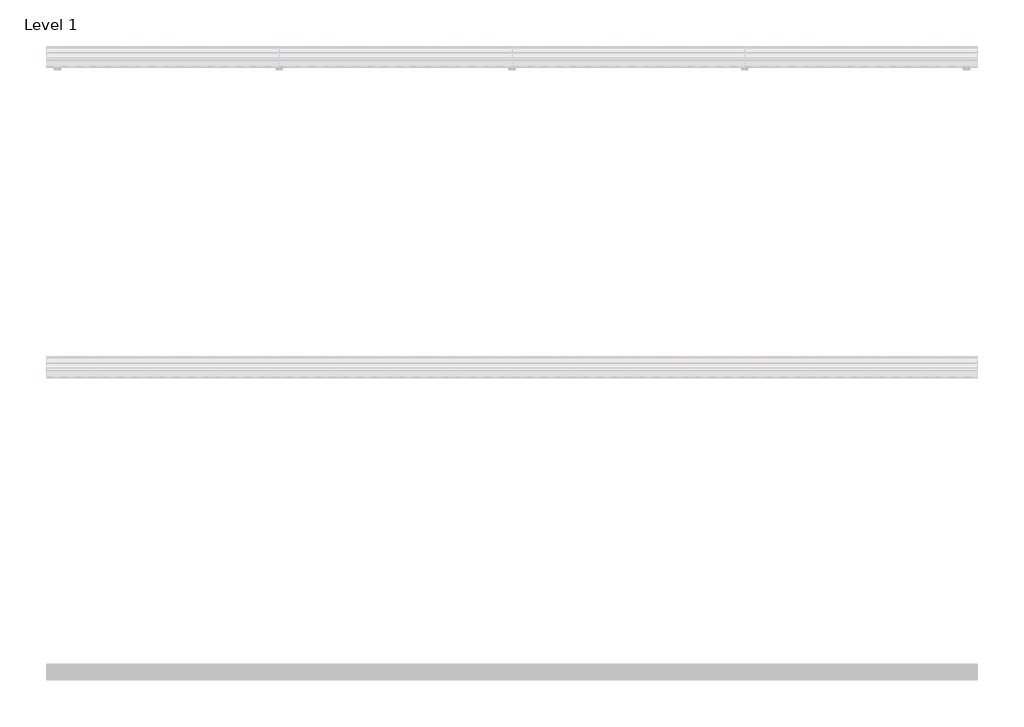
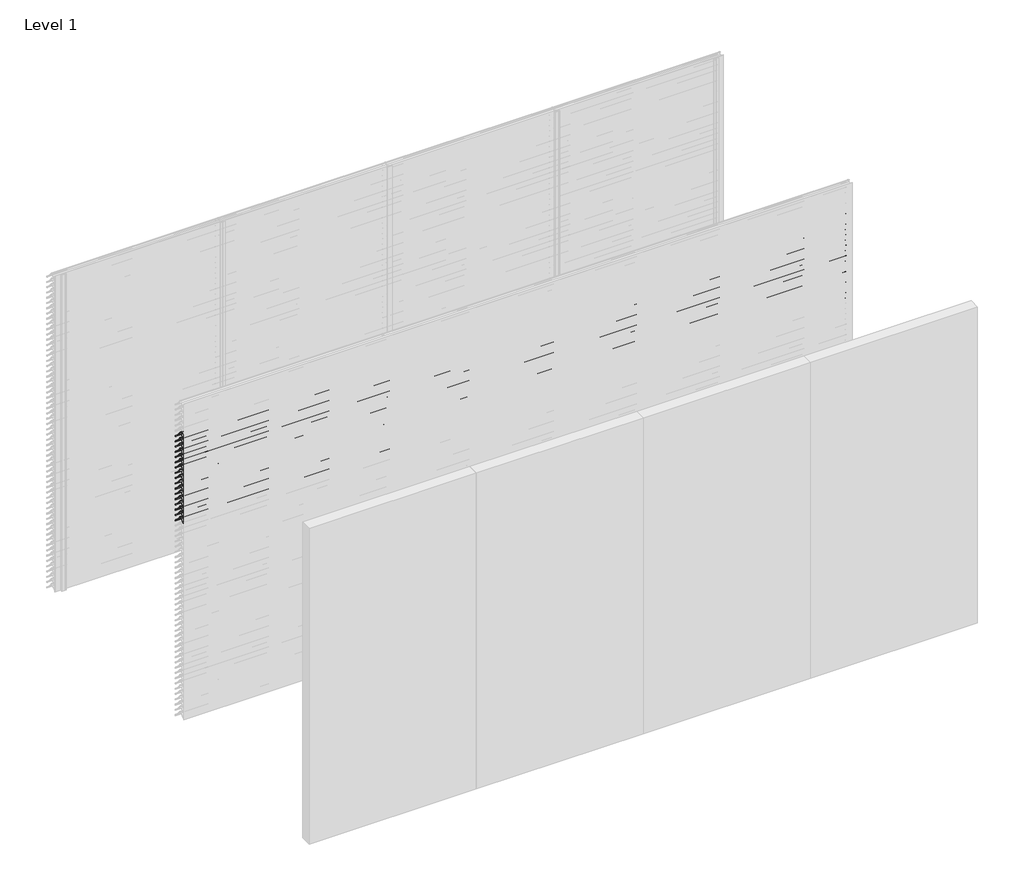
# One storey, part 89 of 173: 17 proxies.
"""IFC4 building model written with IfcOpenShell, lengths in millimetres."""

from ifc_helpers import new_model, si_unit, point, frame, frame_2d, origin, place, context, project, spatial, polyline, circle_curve, trimmed, segment, composite_curve, outline, extrude, element, save

model = new_model("IFC4")

# Units and contexts
model_context = context("Model", 3, world=origin())
ifc_project = project(units=[si_unit("LENGTHUNIT", "METRE", prefix="MILLI")], contexts=[model_context])

# Site, building, storey
site = spatial("IfcSite", under=ifc_project)
building = spatial("IfcBuilding", under=site)
storey = spatial("IfcBuildingStorey", under=building, Name="Level 1", Elevation=0.0)

# Proxies
placement = place(None, origin())
element("IfcBuildingElementProxy", 1, Name="Wall Sweeps", at=placement, inside=storey, context=model_context, shape_type="SweptSolid", body=[
    extrude(outline(composite_curve([segment(polyline([(-25998.0, 2659.1474905), (-25998.0, 2661.6227417)]), True, "CONTINUOUS"), segment(trimmed(circle_curve(frame_2d((-25951.2682172, 2616.2200208)), 65.1557103), [point((-25998.0, 2661.6227417))], [point((-25954.4014323, 2681.3003524))], False, "CARTESIAN"), True, "CONTINUOUS"), segment(polyline([(-25954.4014323, 2681.3003524), (-25934.8315836, 2681.3003524)]), True, "CONTINUOUS"), segment(trimmed(circle_curve(frame_2d((-25732.7329489, 2828.5533172)), 250.0545817), [point((-25934.8315836, 2681.3003524))], [point((-25941.4452143, 2690.8344583))], False, "CARTESIAN"), True, "CONTINUOUS"), segment(trimmed(circle_curve(frame_2d((-25953.2981792, 2685.1737835)), 13.1352966), [point((-25941.4452143, 2690.8344583))], [point((-25953.8171475, 2698.298824))], True, "CARTESIAN"), True, "CONTINUOUS"), segment(polyline([(-25953.8171475, 2698.298824), (-25953.8171475, 2700.0)]), True, "CONTINUOUS"), segment(trimmed(circle_curve(frame_2d((-25953.2981792, 2685.1737835)), 14.8352966), [point((-25953.8171475, 2700.0))], [point((-25939.9637661, 2691.6760487))], False, "CARTESIAN"), True, "CONTINUOUS"), segment(trimmed(circle_curve(frame_2d((-25732.7329489, 2828.5533172)), 248.3545817), [point((-25939.9637661, 2691.6760487))], [point((-25873.8787895, 2624.2059416))], True, "CARTESIAN"), True, "CONTINUOUS"), segment(trimmed(circle_curve(frame_2d((-25883.8147537, 2611.6649442)), 16.0), [point((-25873.8787895, 2624.2059416))], [point((-25867.8648347, 2610.4))], False, "CARTESIAN"), True, "CONTINUOUS"), segment(polyline([(-25867.8648347, 2610.4), (-25869.6712069, 2610.4)]), True, "CONTINUOUS"), segment(trimmed(circle_curve(frame_2d((-25883.8147537, 2611.6649442)), 14.2), [point((-25869.6712069, 2610.4))], [point((-25874.9518628, 2622.7594998))], True, "CARTESIAN"), True, "CONTINUOUS"), segment(trimmed(circle_curve(frame_2d((-25732.7329489, 2828.5533172)), 250.1545817), [point((-25874.9518628, 2622.7594998))], [point((-25933.7064024, 2679.6003524))], False, "CARTESIAN"), True, "CONTINUOUS"), segment(polyline([(-25933.7064024, 2679.6003524), (-25954.3602632, 2679.6003524)]), True, "CONTINUOUS"), segment(trimmed(circle_curve(frame_2d((-25951.2682172, 2616.2200208)), 63.4557103), [point((-25954.3602632, 2679.6003524))], [point((-25998.0, 2659.1474905))], True, "CARTESIAN"), True, "CONTINUOUS")], self_intersect=False)), frame((0.0, 0.0, 0.0), z_axis=(1.0, 0.0, 0.0), x_axis=(0.0, 1.0, 0.0)), (0.0, 0.0, 1.0), 6000.0),
])
element("IfcBuildingElementProxy", 2, Name="Wall Sweeps", at=placement, inside=storey, context=model_context, shape_type="SweptSolid", body=[
    extrude(outline(composite_curve([segment(polyline([(-25998.0, 2609.1474905), (-25998.0, 2611.6227417)]), True, "CONTINUOUS"), segment(trimmed(circle_curve(frame_2d((-25951.2682172, 2566.2200208)), 65.1557103), [point((-25998.0, 2611.6227417))], [point((-25954.4014323, 2631.3003524))], False, "CARTESIAN"), True, "CONTINUOUS"), segment(polyline([(-25954.4014323, 2631.3003524), (-25934.8315836, 2631.3003524)]), True, "CONTINUOUS"), segment(trimmed(circle_curve(frame_2d((-25732.7329489, 2778.5533172)), 250.0545817), [point((-25934.8315836, 2631.3003524))], [point((-25941.4452143, 2640.8344583))], False, "CARTESIAN"), True, "CONTINUOUS"), segment(trimmed(circle_curve(frame_2d((-25953.2981792, 2635.1737835)), 13.1352966), [point((-25941.4452143, 2640.8344583))], [point((-25953.8171475, 2648.298824))], True, "CARTESIAN"), True, "CONTINUOUS"), segment(polyline([(-25953.8171475, 2648.298824), (-25953.8171475, 2650.0)]), True, "CONTINUOUS"), segment(trimmed(circle_curve(frame_2d((-25953.2981792, 2635.1737835)), 14.8352966), [point((-25953.8171475, 2650.0))], [point((-25939.9637661, 2641.6760487))], False, "CARTESIAN"), True, "CONTINUOUS"), segment(trimmed(circle_curve(frame_2d((-25732.7329489, 2778.5533172)), 248.3545817), [point((-25939.9637661, 2641.6760487))], [point((-25873.8787895, 2574.2059416))], True, "CARTESIAN"), True, "CONTINUOUS"), segment(trimmed(circle_curve(frame_2d((-25883.8147537, 2561.6649442)), 16.0), [point((-25873.8787895, 2574.2059416))], [point((-25867.8648347, 2560.4))], False, "CARTESIAN"), True, "CONTINUOUS"), segment(polyline([(-25867.8648347, 2560.4), (-25869.6712069, 2560.4)]), True, "CONTINUOUS"), segment(trimmed(circle_curve(frame_2d((-25883.8147537, 2561.6649442)), 14.2), [point((-25869.6712069, 2560.4))], [point((-25874.9518628, 2572.7594998))], True, "CARTESIAN"), True, "CONTINUOUS"), segment(trimmed(circle_curve(frame_2d((-25732.7329489, 2778.5533172)), 250.1545817), [point((-25874.9518628, 2572.7594998))], [point((-25933.7064024, 2629.6003524))], False, "CARTESIAN"), True, "CONTINUOUS"), segment(polyline([(-25933.7064024, 2629.6003524), (-25954.3602632, 2629.6003524)]), True, "CONTINUOUS"), segment(trimmed(circle_curve(frame_2d((-25951.2682172, 2566.2200208)), 63.4557103), [point((-25954.3602632, 2629.6003524))], [point((-25998.0, 2609.1474905))], True, "CARTESIAN"), True, "CONTINUOUS")], self_intersect=False)), frame((0.0, 0.0, 0.0), z_axis=(1.0, 0.0, 0.0), x_axis=(0.0, 1.0, 0.0)), (0.0, 0.0, 1.0), 6000.0),
])
element("IfcBuildingElementProxy", 3, Name="Wall Sweeps", at=placement, inside=storey, context=model_context, shape_type="SweptSolid", body=[
    extrude(outline(composite_curve([segment(polyline([(-25998.0, 2559.1474905), (-25998.0, 2561.6227417)]), True, "CONTINUOUS"), segment(trimmed(circle_curve(frame_2d((-25951.2682172, 2516.2200208)), 65.1557103), [point((-25998.0, 2561.6227417))], [point((-25954.4014323, 2581.3003524))], False, "CARTESIAN"), True, "CONTINUOUS"), segment(polyline([(-25954.4014323, 2581.3003524), (-25934.8315836, 2581.3003524)]), True, "CONTINUOUS"), segment(trimmed(circle_curve(frame_2d((-25732.7329489, 2728.5533172)), 250.0545817), [point((-25934.8315836, 2581.3003524))], [point((-25941.4452143, 2590.8344583))], False, "CARTESIAN"), True, "CONTINUOUS"), segment(trimmed(circle_curve(frame_2d((-25953.2981792, 2585.1737835)), 13.1352966), [point((-25941.4452143, 2590.8344583))], [point((-25953.8171475, 2598.298824))], True, "CARTESIAN"), True, "CONTINUOUS"), segment(polyline([(-25953.8171475, 2598.298824), (-25953.8171475, 2600.0)]), True, "CONTINUOUS"), segment(trimmed(circle_curve(frame_2d((-25953.2981792, 2585.1737835)), 14.8352966), [point((-25953.8171475, 2600.0))], [point((-25939.9637661, 2591.6760487))], False, "CARTESIAN"), True, "CONTINUOUS"), segment(trimmed(circle_curve(frame_2d((-25732.7329489, 2728.5533172)), 248.3545817), [point((-25939.9637661, 2591.6760487))], [point((-25873.8787895, 2524.2059416))], True, "CARTESIAN"), True, "CONTINUOUS"), segment(trimmed(circle_curve(frame_2d((-25883.8147537, 2511.6649442)), 16.0), [point((-25873.8787895, 2524.2059416))], [point((-25867.8648347, 2510.4))], False, "CARTESIAN"), True, "CONTINUOUS"), segment(polyline([(-25867.8648347, 2510.4), (-25869.6712069, 2510.4)]), True, "CONTINUOUS"), segment(trimmed(circle_curve(frame_2d((-25883.8147537, 2511.6649442)), 14.2), [point((-25869.6712069, 2510.4))], [point((-25874.9518628, 2522.7594998))], True, "CARTESIAN"), True, "CONTINUOUS"), segment(trimmed(circle_curve(frame_2d((-25732.7329489, 2728.5533172)), 250.1545817), [point((-25874.9518628, 2522.7594998))], [point((-25933.7064024, 2579.6003524))], False, "CARTESIAN"), True, "CONTINUOUS"), segment(polyline([(-25933.7064024, 2579.6003524), (-25954.3602632, 2579.6003524)]), True, "CONTINUOUS"), segment(trimmed(circle_curve(frame_2d((-25951.2682172, 2516.2200208)), 63.4557103), [point((-25954.3602632, 2579.6003524))], [point((-25998.0, 2559.1474905))], True, "CARTESIAN"), True, "CONTINUOUS")], self_intersect=False)), frame((0.0, 0.0, 0.0), z_axis=(1.0, 0.0, 0.0), x_axis=(0.0, 1.0, 0.0)), (0.0, 0.0, 1.0), 6000.0),
])
element("IfcBuildingElementProxy", 4, Name="Wall Sweeps", at=placement, inside=storey, context=model_context, shape_type="SweptSolid", body=[
    extrude(outline(composite_curve([segment(polyline([(-25998.0, 2509.1474905), (-25998.0, 2511.6227417)]), True, "CONTINUOUS"), segment(trimmed(circle_curve(frame_2d((-25951.2682172, 2466.2200208)), 65.1557103), [point((-25998.0, 2511.6227417))], [point((-25954.4014323, 2531.3003524))], False, "CARTESIAN"), True, "CONTINUOUS"), segment(polyline([(-25954.4014323, 2531.3003524), (-25934.8315836, 2531.3003524)]), True, "CONTINUOUS"), segment(trimmed(circle_curve(frame_2d((-25732.7329489, 2678.5533172)), 250.0545817), [point((-25934.8315836, 2531.3003524))], [point((-25941.4452143, 2540.8344583))], False, "CARTESIAN"), True, "CONTINUOUS"), segment(trimmed(circle_curve(frame_2d((-25953.2981792, 2535.1737835)), 13.1352966), [point((-25941.4452143, 2540.8344583))], [point((-25953.8171475, 2548.298824))], True, "CARTESIAN"), True, "CONTINUOUS"), segment(polyline([(-25953.8171475, 2548.298824), (-25953.8171475, 2550.0)]), True, "CONTINUOUS"), segment(trimmed(circle_curve(frame_2d((-25953.2981792, 2535.1737835)), 14.8352966), [point((-25953.8171475, 2550.0))], [point((-25939.9637661, 2541.6760487))], False, "CARTESIAN"), True, "CONTINUOUS"), segment(trimmed(circle_curve(frame_2d((-25732.7329489, 2678.5533172)), 248.3545817), [point((-25939.9637661, 2541.6760487))], [point((-25873.8787895, 2474.2059416))], True, "CARTESIAN"), True, "CONTINUOUS"), segment(trimmed(circle_curve(frame_2d((-25883.8147537, 2461.6649442)), 16.0), [point((-25873.8787895, 2474.2059416))], [point((-25867.8648347, 2460.4))], False, "CARTESIAN"), True, "CONTINUOUS"), segment(polyline([(-25867.8648347, 2460.4), (-25869.6712069, 2460.4)]), True, "CONTINUOUS"), segment(trimmed(circle_curve(frame_2d((-25883.8147537, 2461.6649442)), 14.2), [point((-25869.6712069, 2460.4))], [point((-25874.9518628, 2472.7594998))], True, "CARTESIAN"), True, "CONTINUOUS"), segment(trimmed(circle_curve(frame_2d((-25732.7329489, 2678.5533172)), 250.1545817), [point((-25874.9518628, 2472.7594998))], [point((-25933.7064024, 2529.6003524))], False, "CARTESIAN"), True, "CONTINUOUS"), segment(polyline([(-25933.7064024, 2529.6003524), (-25954.3602632, 2529.6003524)]), True, "CONTINUOUS"), segment(trimmed(circle_curve(frame_2d((-25951.2682172, 2466.2200208)), 63.4557103), [point((-25954.3602632, 2529.6003524))], [point((-25998.0, 2509.1474905))], True, "CARTESIAN"), True, "CONTINUOUS")], self_intersect=False)), frame((0.0, 0.0, 0.0), z_axis=(1.0, 0.0, 0.0), x_axis=(0.0, 1.0, 0.0)), (0.0, 0.0, 1.0), 6000.0),
])
element("IfcBuildingElementProxy", 5, Name="Wall Sweeps", at=placement, inside=storey, context=model_context, shape_type="SweptSolid", body=[
    extrude(outline(composite_curve([segment(polyline([(-25998.0, 2459.1474905), (-25998.0, 2461.6227417)]), True, "CONTINUOUS"), segment(trimmed(circle_curve(frame_2d((-25951.2682172, 2416.2200208)), 65.1557103), [point((-25998.0, 2461.6227417))], [point((-25954.4014323, 2481.3003524))], False, "CARTESIAN"), True, "CONTINUOUS"), segment(polyline([(-25954.4014323, 2481.3003524), (-25934.8315836, 2481.3003524)]), True, "CONTINUOUS"), segment(trimmed(circle_curve(frame_2d((-25732.7329489, 2628.5533172)), 250.0545817), [point((-25934.8315836, 2481.3003524))], [point((-25941.4452143, 2490.8344583))], False, "CARTESIAN"), True, "CONTINUOUS"), segment(trimmed(circle_curve(frame_2d((-25953.2981792, 2485.1737835)), 13.1352966), [point((-25941.4452143, 2490.8344583))], [point((-25953.8171475, 2498.298824))], True, "CARTESIAN"), True, "CONTINUOUS"), segment(polyline([(-25953.8171475, 2498.298824), (-25953.8171475, 2500.0)]), True, "CONTINUOUS"), segment(trimmed(circle_curve(frame_2d((-25953.2981792, 2485.1737835)), 14.8352966), [point((-25953.8171475, 2500.0))], [point((-25939.9637661, 2491.6760487))], False, "CARTESIAN"), True, "CONTINUOUS"), segment(trimmed(circle_curve(frame_2d((-25732.7329489, 2628.5533172)), 248.3545817), [point((-25939.9637661, 2491.6760487))], [point((-25873.8787895, 2424.2059416))], True, "CARTESIAN"), True, "CONTINUOUS"), segment(trimmed(circle_curve(frame_2d((-25883.8147537, 2411.6649442)), 16.0), [point((-25873.8787895, 2424.2059416))], [point((-25867.8648347, 2410.4))], False, "CARTESIAN"), True, "CONTINUOUS"), segment(polyline([(-25867.8648347, 2410.4), (-25869.6712069, 2410.4)]), True, "CONTINUOUS"), segment(trimmed(circle_curve(frame_2d((-25883.8147537, 2411.6649442)), 14.2), [point((-25869.6712069, 2410.4))], [point((-25874.9518628, 2422.7594998))], True, "CARTESIAN"), True, "CONTINUOUS"), segment(trimmed(circle_curve(frame_2d((-25732.7329489, 2628.5533172)), 250.1545817), [point((-25874.9518628, 2422.7594998))], [point((-25933.7064024, 2479.6003524))], False, "CARTESIAN"), True, "CONTINUOUS"), segment(polyline([(-25933.7064024, 2479.6003524), (-25954.3602632, 2479.6003524)]), True, "CONTINUOUS"), segment(trimmed(circle_curve(frame_2d((-25951.2682172, 2416.2200208)), 63.4557103), [point((-25954.3602632, 2479.6003524))], [point((-25998.0, 2459.1474905))], True, "CARTESIAN"), True, "CONTINUOUS")], self_intersect=False)), frame((0.0, 0.0, 0.0), z_axis=(1.0, 0.0, 0.0), x_axis=(0.0, 1.0, 0.0)), (0.0, 0.0, 1.0), 6000.0),
])
element("IfcBuildingElementProxy", 6, Name="Wall Sweeps", at=placement, inside=storey, context=model_context, shape_type="SweptSolid", body=[
    extrude(outline(composite_curve([segment(polyline([(-25998.0, 2409.1474905), (-25998.0, 2411.6227417)]), True, "CONTINUOUS"), segment(trimmed(circle_curve(frame_2d((-25951.2682172, 2366.2200208)), 65.1557103), [point((-25998.0, 2411.6227417))], [point((-25954.4014323, 2431.3003524))], False, "CARTESIAN"), True, "CONTINUOUS"), segment(polyline([(-25954.4014323, 2431.3003524), (-25934.8315836, 2431.3003524)]), True, "CONTINUOUS"), segment(trimmed(circle_curve(frame_2d((-25732.7329489, 2578.5533172)), 250.0545817), [point((-25934.8315836, 2431.3003524))], [point((-25941.4452143, 2440.8344583))], False, "CARTESIAN"), True, "CONTINUOUS"), segment(trimmed(circle_curve(frame_2d((-25953.2981792, 2435.1737835)), 13.1352966), [point((-25941.4452143, 2440.8344583))], [point((-25953.8171475, 2448.298824))], True, "CARTESIAN"), True, "CONTINUOUS"), segment(polyline([(-25953.8171475, 2448.298824), (-25953.8171475, 2450.0)]), True, "CONTINUOUS"), segment(trimmed(circle_curve(frame_2d((-25953.2981792, 2435.1737835)), 14.8352966), [point((-25953.8171475, 2450.0))], [point((-25939.9637661, 2441.6760487))], False, "CARTESIAN"), True, "CONTINUOUS"), segment(trimmed(circle_curve(frame_2d((-25732.7329489, 2578.5533172)), 248.3545817), [point((-25939.9637661, 2441.6760487))], [point((-25873.8787895, 2374.2059416))], True, "CARTESIAN"), True, "CONTINUOUS"), segment(trimmed(circle_curve(frame_2d((-25883.8147537, 2361.6649442)), 16.0), [point((-25873.8787895, 2374.2059416))], [point((-25867.8648347, 2360.4))], False, "CARTESIAN"), True, "CONTINUOUS"), segment(polyline([(-25867.8648347, 2360.4), (-25869.6712069, 2360.4)]), True, "CONTINUOUS"), segment(trimmed(circle_curve(frame_2d((-25883.8147537, 2361.6649442)), 14.2), [point((-25869.6712069, 2360.4))], [point((-25874.9518628, 2372.7594998))], True, "CARTESIAN"), True, "CONTINUOUS"), segment(trimmed(circle_curve(frame_2d((-25732.7329489, 2578.5533172)), 250.1545817), [point((-25874.9518628, 2372.7594998))], [point((-25933.7064024, 2429.6003524))], False, "CARTESIAN"), True, "CONTINUOUS"), segment(polyline([(-25933.7064024, 2429.6003524), (-25954.3602632, 2429.6003524)]), True, "CONTINUOUS"), segment(trimmed(circle_curve(frame_2d((-25951.2682172, 2366.2200208)), 63.4557103), [point((-25954.3602632, 2429.6003524))], [point((-25998.0, 2409.1474905))], True, "CARTESIAN"), True, "CONTINUOUS")], self_intersect=False)), frame((0.0, 0.0, 0.0), z_axis=(1.0, 0.0, 0.0), x_axis=(0.0, 1.0, 0.0)), (0.0, 0.0, 1.0), 6000.0),
])
element("IfcBuildingElementProxy", 7, Name="Wall Sweeps", at=placement, inside=storey, context=model_context, shape_type="SweptSolid", body=[
    extrude(outline(composite_curve([segment(polyline([(-25998.0, 2359.1474905), (-25998.0, 2361.6227417)]), True, "CONTINUOUS"), segment(trimmed(circle_curve(frame_2d((-25951.2682172, 2316.2200208)), 65.1557103), [point((-25998.0, 2361.6227417))], [point((-25954.4014323, 2381.3003524))], False, "CARTESIAN"), True, "CONTINUOUS"), segment(polyline([(-25954.4014323, 2381.3003524), (-25934.8315836, 2381.3003524)]), True, "CONTINUOUS"), segment(trimmed(circle_curve(frame_2d((-25732.7329489, 2528.5533172)), 250.0545817), [point((-25934.8315836, 2381.3003524))], [point((-25941.4452143, 2390.8344583))], False, "CARTESIAN"), True, "CONTINUOUS"), segment(trimmed(circle_curve(frame_2d((-25953.2981792, 2385.1737835)), 13.1352966), [point((-25941.4452143, 2390.8344583))], [point((-25953.8171475, 2398.298824))], True, "CARTESIAN"), True, "CONTINUOUS"), segment(polyline([(-25953.8171475, 2398.298824), (-25953.8171475, 2400.0)]), True, "CONTINUOUS"), segment(trimmed(circle_curve(frame_2d((-25953.2981792, 2385.1737835)), 14.8352966), [point((-25953.8171475, 2400.0))], [point((-25939.9637661, 2391.6760487))], False, "CARTESIAN"), True, "CONTINUOUS"), segment(trimmed(circle_curve(frame_2d((-25732.7329489, 2528.5533172)), 248.3545817), [point((-25939.9637661, 2391.6760487))], [point((-25873.8787895, 2324.2059416))], True, "CARTESIAN"), True, "CONTINUOUS"), segment(trimmed(circle_curve(frame_2d((-25883.8147537, 2311.6649442)), 16.0), [point((-25873.8787895, 2324.2059416))], [point((-25867.8648347, 2310.4))], False, "CARTESIAN"), True, "CONTINUOUS"), segment(polyline([(-25867.8648347, 2310.4), (-25869.6712069, 2310.4)]), True, "CONTINUOUS"), segment(trimmed(circle_curve(frame_2d((-25883.8147537, 2311.6649442)), 14.2), [point((-25869.6712069, 2310.4))], [point((-25874.9518628, 2322.7594998))], True, "CARTESIAN"), True, "CONTINUOUS"), segment(trimmed(circle_curve(frame_2d((-25732.7329489, 2528.5533172)), 250.1545817), [point((-25874.9518628, 2322.7594998))], [point((-25933.7064024, 2379.6003524))], False, "CARTESIAN"), True, "CONTINUOUS"), segment(polyline([(-25933.7064024, 2379.6003524), (-25954.3602632, 2379.6003524)]), True, "CONTINUOUS"), segment(trimmed(circle_curve(frame_2d((-25951.2682172, 2316.2200208)), 63.4557103), [point((-25954.3602632, 2379.6003524))], [point((-25998.0, 2359.1474905))], True, "CARTESIAN"), True, "CONTINUOUS")], self_intersect=False)), frame((0.0, 0.0, 0.0), z_axis=(1.0, 0.0, 0.0), x_axis=(0.0, 1.0, 0.0)), (0.0, 0.0, 1.0), 6000.0),
])
element("IfcBuildingElementProxy", 8, Name="Wall Sweeps", at=placement, inside=storey, context=model_context, shape_type="SweptSolid", body=[
    extrude(outline(composite_curve([segment(polyline([(-25998.0, 2309.1474905), (-25998.0, 2311.6227417)]), True, "CONTINUOUS"), segment(trimmed(circle_curve(frame_2d((-25951.2682172, 2266.2200208)), 65.1557103), [point((-25998.0, 2311.6227417))], [point((-25954.4014323, 2331.3003524))], False, "CARTESIAN"), True, "CONTINUOUS"), segment(polyline([(-25954.4014323, 2331.3003524), (-25934.8315836, 2331.3003524)]), True, "CONTINUOUS"), segment(trimmed(circle_curve(frame_2d((-25732.7329489, 2478.5533172)), 250.0545817), [point((-25934.8315836, 2331.3003524))], [point((-25941.4452143, 2340.8344583))], False, "CARTESIAN"), True, "CONTINUOUS"), segment(trimmed(circle_curve(frame_2d((-25953.2981792, 2335.1737835)), 13.1352966), [point((-25941.4452143, 2340.8344583))], [point((-25953.8171475, 2348.298824))], True, "CARTESIAN"), True, "CONTINUOUS"), segment(polyline([(-25953.8171475, 2348.298824), (-25953.8171475, 2350.0)]), True, "CONTINUOUS"), segment(trimmed(circle_curve(frame_2d((-25953.2981792, 2335.1737835)), 14.8352966), [point((-25953.8171475, 2350.0))], [point((-25939.9637661, 2341.6760487))], False, "CARTESIAN"), True, "CONTINUOUS"), segment(trimmed(circle_curve(frame_2d((-25732.7329489, 2478.5533172)), 248.3545817), [point((-25939.9637661, 2341.6760487))], [point((-25873.8787895, 2274.2059416))], True, "CARTESIAN"), True, "CONTINUOUS"), segment(trimmed(circle_curve(frame_2d((-25883.8147537, 2261.6649442)), 16.0), [point((-25873.8787895, 2274.2059416))], [point((-25867.8648347, 2260.4))], False, "CARTESIAN"), True, "CONTINUOUS"), segment(polyline([(-25867.8648347, 2260.4), (-25869.6712069, 2260.4)]), True, "CONTINUOUS"), segment(trimmed(circle_curve(frame_2d((-25883.8147537, 2261.6649442)), 14.2), [point((-25869.6712069, 2260.4))], [point((-25874.9518628, 2272.7594998))], True, "CARTESIAN"), True, "CONTINUOUS"), segment(trimmed(circle_curve(frame_2d((-25732.7329489, 2478.5533172)), 250.1545817), [point((-25874.9518628, 2272.7594998))], [point((-25933.7064024, 2329.6003524))], False, "CARTESIAN"), True, "CONTINUOUS"), segment(polyline([(-25933.7064024, 2329.6003524), (-25954.3602632, 2329.6003524)]), True, "CONTINUOUS"), segment(trimmed(circle_curve(frame_2d((-25951.2682172, 2266.2200208)), 63.4557103), [point((-25954.3602632, 2329.6003524))], [point((-25998.0, 2309.1474905))], True, "CARTESIAN"), True, "CONTINUOUS")], self_intersect=False)), frame((0.0, 0.0, 0.0), z_axis=(1.0, 0.0, 0.0), x_axis=(0.0, 1.0, 0.0)), (0.0, 0.0, 1.0), 6000.0),
])
element("IfcBuildingElementProxy", 9, Name="Wall Sweeps", at=placement, inside=storey, context=model_context, shape_type="SweptSolid", body=[
    extrude(outline(composite_curve([segment(polyline([(-25998.0, 2259.1474905), (-25998.0, 2261.6227417)]), True, "CONTINUOUS"), segment(trimmed(circle_curve(frame_2d((-25951.2682172, 2216.2200208)), 65.1557103), [point((-25998.0, 2261.6227417))], [point((-25954.4014323, 2281.3003524))], False, "CARTESIAN"), True, "CONTINUOUS"), segment(polyline([(-25954.4014323, 2281.3003524), (-25934.8315836, 2281.3003524)]), True, "CONTINUOUS"), segment(trimmed(circle_curve(frame_2d((-25732.7329489, 2428.5533172)), 250.0545817), [point((-25934.8315836, 2281.3003524))], [point((-25941.4452143, 2290.8344583))], False, "CARTESIAN"), True, "CONTINUOUS"), segment(trimmed(circle_curve(frame_2d((-25953.2981792, 2285.1737835)), 13.1352966), [point((-25941.4452143, 2290.8344583))], [point((-25953.8171475, 2298.298824))], True, "CARTESIAN"), True, "CONTINUOUS"), segment(polyline([(-25953.8171475, 2298.298824), (-25953.8171475, 2300.0)]), True, "CONTINUOUS"), segment(trimmed(circle_curve(frame_2d((-25953.2981792, 2285.1737835)), 14.8352966), [point((-25953.8171475, 2300.0))], [point((-25939.9637661, 2291.6760487))], False, "CARTESIAN"), True, "CONTINUOUS"), segment(trimmed(circle_curve(frame_2d((-25732.7329489, 2428.5533172)), 248.3545817), [point((-25939.9637661, 2291.6760487))], [point((-25873.8787895, 2224.2059416))], True, "CARTESIAN"), True, "CONTINUOUS"), segment(trimmed(circle_curve(frame_2d((-25883.8147537, 2211.6649442)), 16.0), [point((-25873.8787895, 2224.2059416))], [point((-25867.8648347, 2210.4))], False, "CARTESIAN"), True, "CONTINUOUS"), segment(polyline([(-25867.8648347, 2210.4), (-25869.6712069, 2210.4)]), True, "CONTINUOUS"), segment(trimmed(circle_curve(frame_2d((-25883.8147537, 2211.6649442)), 14.2), [point((-25869.6712069, 2210.4))], [point((-25874.9518628, 2222.7594998))], True, "CARTESIAN"), True, "CONTINUOUS"), segment(trimmed(circle_curve(frame_2d((-25732.7329489, 2428.5533172)), 250.1545817), [point((-25874.9518628, 2222.7594998))], [point((-25933.7064024, 2279.6003524))], False, "CARTESIAN"), True, "CONTINUOUS"), segment(polyline([(-25933.7064024, 2279.6003524), (-25954.3602632, 2279.6003524)]), True, "CONTINUOUS"), segment(trimmed(circle_curve(frame_2d((-25951.2682172, 2216.2200208)), 63.4557103), [point((-25954.3602632, 2279.6003524))], [point((-25998.0, 2259.1474905))], True, "CARTESIAN"), True, "CONTINUOUS")], self_intersect=False)), frame((0.0, 0.0, 0.0), z_axis=(1.0, 0.0, 0.0), x_axis=(0.0, 1.0, 0.0)), (0.0, 0.0, 1.0), 6000.0),
])
element("IfcBuildingElementProxy", 10, Name="Wall Sweeps", at=placement, inside=storey, context=model_context, shape_type="SweptSolid", body=[
    extrude(outline(composite_curve([segment(polyline([(-25998.0, 2209.1474905), (-25998.0, 2211.6227417)]), True, "CONTINUOUS"), segment(trimmed(circle_curve(frame_2d((-25951.2682172, 2166.2200208)), 65.1557103), [point((-25998.0, 2211.6227417))], [point((-25954.4014323, 2231.3003524))], False, "CARTESIAN"), True, "CONTINUOUS"), segment(polyline([(-25954.4014323, 2231.3003524), (-25934.8315836, 2231.3003524)]), True, "CONTINUOUS"), segment(trimmed(circle_curve(frame_2d((-25732.7329489, 2378.5533172)), 250.0545817), [point((-25934.8315836, 2231.3003524))], [point((-25941.4452143, 2240.8344583))], False, "CARTESIAN"), True, "CONTINUOUS"), segment(trimmed(circle_curve(frame_2d((-25953.2981792, 2235.1737835)), 13.1352966), [point((-25941.4452143, 2240.8344583))], [point((-25953.8171475, 2248.298824))], True, "CARTESIAN"), True, "CONTINUOUS"), segment(polyline([(-25953.8171475, 2248.298824), (-25953.8171475, 2250.0)]), True, "CONTINUOUS"), segment(trimmed(circle_curve(frame_2d((-25953.2981792, 2235.1737835)), 14.8352966), [point((-25953.8171475, 2250.0))], [point((-25939.9637661, 2241.6760487))], False, "CARTESIAN"), True, "CONTINUOUS"), segment(trimmed(circle_curve(frame_2d((-25732.7329489, 2378.5533172)), 248.3545817), [point((-25939.9637661, 2241.6760487))], [point((-25873.8787895, 2174.2059416))], True, "CARTESIAN"), True, "CONTINUOUS"), segment(trimmed(circle_curve(frame_2d((-25883.8147537, 2161.6649442)), 16.0), [point((-25873.8787895, 2174.2059416))], [point((-25867.8648347, 2160.4))], False, "CARTESIAN"), True, "CONTINUOUS"), segment(polyline([(-25867.8648347, 2160.4), (-25869.6712069, 2160.4)]), True, "CONTINUOUS"), segment(trimmed(circle_curve(frame_2d((-25883.8147537, 2161.6649442)), 14.2), [point((-25869.6712069, 2160.4))], [point((-25874.9518628, 2172.7594998))], True, "CARTESIAN"), True, "CONTINUOUS"), segment(trimmed(circle_curve(frame_2d((-25732.7329489, 2378.5533172)), 250.1545817), [point((-25874.9518628, 2172.7594998))], [point((-25933.7064024, 2229.6003524))], False, "CARTESIAN"), True, "CONTINUOUS"), segment(polyline([(-25933.7064024, 2229.6003524), (-25954.3602632, 2229.6003524)]), True, "CONTINUOUS"), segment(trimmed(circle_curve(frame_2d((-25951.2682172, 2166.2200208)), 63.4557103), [point((-25954.3602632, 2229.6003524))], [point((-25998.0, 2209.1474905))], True, "CARTESIAN"), True, "CONTINUOUS")], self_intersect=False)), frame((0.0, 0.0, 0.0), z_axis=(1.0, 0.0, 0.0), x_axis=(0.0, 1.0, 0.0)), (0.0, 0.0, 1.0), 6000.0),
])
element("IfcBuildingElementProxy", 11, Name="Wall Sweeps", at=placement, inside=storey, context=model_context, shape_type="SweptSolid", body=[
    extrude(outline(composite_curve([segment(polyline([(-25998.0, 2159.1474905), (-25998.0, 2161.6227417)]), True, "CONTINUOUS"), segment(trimmed(circle_curve(frame_2d((-25951.2682172, 2116.2200208)), 65.1557103), [point((-25998.0, 2161.6227417))], [point((-25954.4014323, 2181.3003524))], False, "CARTESIAN"), True, "CONTINUOUS"), segment(polyline([(-25954.4014323, 2181.3003524), (-25934.8315836, 2181.3003524)]), True, "CONTINUOUS"), segment(trimmed(circle_curve(frame_2d((-25732.7329489, 2328.5533172)), 250.0545817), [point((-25934.8315836, 2181.3003524))], [point((-25941.4452143, 2190.8344583))], False, "CARTESIAN"), True, "CONTINUOUS"), segment(trimmed(circle_curve(frame_2d((-25953.2981792, 2185.1737835)), 13.1352966), [point((-25941.4452143, 2190.8344583))], [point((-25953.8171475, 2198.298824))], True, "CARTESIAN"), True, "CONTINUOUS"), segment(polyline([(-25953.8171475, 2198.298824), (-25953.8171475, 2200.0)]), True, "CONTINUOUS"), segment(trimmed(circle_curve(frame_2d((-25953.2981792, 2185.1737835)), 14.8352966), [point((-25953.8171475, 2200.0))], [point((-25939.9637661, 2191.6760487))], False, "CARTESIAN"), True, "CONTINUOUS"), segment(trimmed(circle_curve(frame_2d((-25732.7329489, 2328.5533172)), 248.3545817), [point((-25939.9637661, 2191.6760487))], [point((-25873.8787895, 2124.2059416))], True, "CARTESIAN"), True, "CONTINUOUS"), segment(trimmed(circle_curve(frame_2d((-25883.8147537, 2111.6649442)), 16.0), [point((-25873.8787895, 2124.2059416))], [point((-25867.8648347, 2110.4))], False, "CARTESIAN"), True, "CONTINUOUS"), segment(polyline([(-25867.8648347, 2110.4), (-25869.6712069, 2110.4)]), True, "CONTINUOUS"), segment(trimmed(circle_curve(frame_2d((-25883.8147537, 2111.6649442)), 14.2), [point((-25869.6712069, 2110.4))], [point((-25874.9518628, 2122.7594998))], True, "CARTESIAN"), True, "CONTINUOUS"), segment(trimmed(circle_curve(frame_2d((-25732.7329489, 2328.5533172)), 250.1545817), [point((-25874.9518628, 2122.7594998))], [point((-25933.7064024, 2179.6003524))], False, "CARTESIAN"), True, "CONTINUOUS"), segment(polyline([(-25933.7064024, 2179.6003524), (-25954.3602632, 2179.6003524)]), True, "CONTINUOUS"), segment(trimmed(circle_curve(frame_2d((-25951.2682172, 2116.2200208)), 63.4557103), [point((-25954.3602632, 2179.6003524))], [point((-25998.0, 2159.1474905))], True, "CARTESIAN"), True, "CONTINUOUS")], self_intersect=False)), frame((0.0, 0.0, 0.0), z_axis=(1.0, 0.0, 0.0), x_axis=(0.0, 1.0, 0.0)), (0.0, 0.0, 1.0), 6000.0),
])
element("IfcBuildingElementProxy", 12, Name="Wall Sweeps", at=placement, inside=storey, context=model_context, shape_type="SweptSolid", body=[
    extrude(outline(composite_curve([segment(polyline([(-25998.0, 2109.1474905), (-25998.0, 2111.6227417)]), True, "CONTINUOUS"), segment(trimmed(circle_curve(frame_2d((-25951.2682172, 2066.2200208)), 65.1557103), [point((-25998.0, 2111.6227417))], [point((-25954.4014323, 2131.3003524))], False, "CARTESIAN"), True, "CONTINUOUS"), segment(polyline([(-25954.4014323, 2131.3003524), (-25934.8315836, 2131.3003524)]), True, "CONTINUOUS"), segment(trimmed(circle_curve(frame_2d((-25732.7329489, 2278.5533172)), 250.0545817), [point((-25934.8315836, 2131.3003524))], [point((-25941.4452143, 2140.8344583))], False, "CARTESIAN"), True, "CONTINUOUS"), segment(trimmed(circle_curve(frame_2d((-25953.2981792, 2135.1737835)), 13.1352966), [point((-25941.4452143, 2140.8344583))], [point((-25953.8171475, 2148.298824))], True, "CARTESIAN"), True, "CONTINUOUS"), segment(polyline([(-25953.8171475, 2148.298824), (-25953.8171475, 2150.0)]), True, "CONTINUOUS"), segment(trimmed(circle_curve(frame_2d((-25953.2981792, 2135.1737835)), 14.8352966), [point((-25953.8171475, 2150.0))], [point((-25939.9637661, 2141.6760487))], False, "CARTESIAN"), True, "CONTINUOUS"), segment(trimmed(circle_curve(frame_2d((-25732.7329489, 2278.5533172)), 248.3545817), [point((-25939.9637661, 2141.6760487))], [point((-25873.8787895, 2074.2059416))], True, "CARTESIAN"), True, "CONTINUOUS"), segment(trimmed(circle_curve(frame_2d((-25883.8147537, 2061.6649442)), 16.0), [point((-25873.8787895, 2074.2059416))], [point((-25867.8648347, 2060.4))], False, "CARTESIAN"), True, "CONTINUOUS"), segment(polyline([(-25867.8648347, 2060.4), (-25869.6712069, 2060.4)]), True, "CONTINUOUS"), segment(trimmed(circle_curve(frame_2d((-25883.8147537, 2061.6649442)), 14.2), [point((-25869.6712069, 2060.4))], [point((-25874.9518628, 2072.7594998))], True, "CARTESIAN"), True, "CONTINUOUS"), segment(trimmed(circle_curve(frame_2d((-25732.7329489, 2278.5533172)), 250.1545817), [point((-25874.9518628, 2072.7594998))], [point((-25933.7064024, 2129.6003524))], False, "CARTESIAN"), True, "CONTINUOUS"), segment(polyline([(-25933.7064024, 2129.6003524), (-25954.3602632, 2129.6003524)]), True, "CONTINUOUS"), segment(trimmed(circle_curve(frame_2d((-25951.2682172, 2066.2200208)), 63.4557103), [point((-25954.3602632, 2129.6003524))], [point((-25998.0, 2109.1474905))], True, "CARTESIAN"), True, "CONTINUOUS")], self_intersect=False)), frame((0.0, 0.0, 0.0), z_axis=(1.0, 0.0, 0.0), x_axis=(0.0, 1.0, 0.0)), (0.0, 0.0, 1.0), 6000.0),
])
element("IfcBuildingElementProxy", 13, Name="Wall Sweeps", at=placement, inside=storey, context=model_context, shape_type="SweptSolid", body=[
    extrude(outline(composite_curve([segment(polyline([(-25998.0, 2059.1474905), (-25998.0, 2061.6227417)]), True, "CONTINUOUS"), segment(trimmed(circle_curve(frame_2d((-25951.2682172, 2016.2200208)), 65.1557103), [point((-25998.0, 2061.6227417))], [point((-25954.4014323, 2081.3003524))], False, "CARTESIAN"), True, "CONTINUOUS"), segment(polyline([(-25954.4014323, 2081.3003524), (-25934.8315836, 2081.3003524)]), True, "CONTINUOUS"), segment(trimmed(circle_curve(frame_2d((-25732.7329489, 2228.5533172)), 250.0545817), [point((-25934.8315836, 2081.3003524))], [point((-25941.4452143, 2090.8344583))], False, "CARTESIAN"), True, "CONTINUOUS"), segment(trimmed(circle_curve(frame_2d((-25953.2981792, 2085.1737835)), 13.1352966), [point((-25941.4452143, 2090.8344583))], [point((-25953.8171475, 2098.298824))], True, "CARTESIAN"), True, "CONTINUOUS"), segment(polyline([(-25953.8171475, 2098.298824), (-25953.8171475, 2100.0)]), True, "CONTINUOUS"), segment(trimmed(circle_curve(frame_2d((-25953.2981792, 2085.1737835)), 14.8352966), [point((-25953.8171475, 2100.0))], [point((-25939.9637661, 2091.6760487))], False, "CARTESIAN"), True, "CONTINUOUS"), segment(trimmed(circle_curve(frame_2d((-25732.7329489, 2228.5533172)), 248.3545817), [point((-25939.9637661, 2091.6760487))], [point((-25873.8787895, 2024.2059416))], True, "CARTESIAN"), True, "CONTINUOUS"), segment(trimmed(circle_curve(frame_2d((-25883.8147537, 2011.6649442)), 16.0), [point((-25873.8787895, 2024.2059416))], [point((-25867.8648347, 2010.4))], False, "CARTESIAN"), True, "CONTINUOUS"), segment(polyline([(-25867.8648347, 2010.4), (-25869.6712069, 2010.4)]), True, "CONTINUOUS"), segment(trimmed(circle_curve(frame_2d((-25883.8147537, 2011.6649442)), 14.2), [point((-25869.6712069, 2010.4))], [point((-25874.9518628, 2022.7594998))], True, "CARTESIAN"), True, "CONTINUOUS"), segment(trimmed(circle_curve(frame_2d((-25732.7329489, 2228.5533172)), 250.1545817), [point((-25874.9518628, 2022.7594998))], [point((-25933.7064024, 2079.6003524))], False, "CARTESIAN"), True, "CONTINUOUS"), segment(polyline([(-25933.7064024, 2079.6003524), (-25954.3602632, 2079.6003524)]), True, "CONTINUOUS"), segment(trimmed(circle_curve(frame_2d((-25951.2682172, 2016.2200208)), 63.4557103), [point((-25954.3602632, 2079.6003524))], [point((-25998.0, 2059.1474905))], True, "CARTESIAN"), True, "CONTINUOUS")], self_intersect=False)), frame((0.0, 0.0, 0.0), z_axis=(1.0, 0.0, 0.0), x_axis=(0.0, 1.0, 0.0)), (0.0, 0.0, 1.0), 6000.0),
])
element("IfcBuildingElementProxy", 14, Name="Wall Sweeps", at=placement, inside=storey, context=model_context, shape_type="SweptSolid", body=[
    extrude(outline(composite_curve([segment(polyline([(-25998.0, 2009.1474905), (-25998.0, 2011.6227417)]), True, "CONTINUOUS"), segment(trimmed(circle_curve(frame_2d((-25951.2682172, 1966.2200208)), 65.1557103), [point((-25998.0, 2011.6227417))], [point((-25954.4014323, 2031.3003524))], False, "CARTESIAN"), True, "CONTINUOUS"), segment(polyline([(-25954.4014323, 2031.3003524), (-25934.8315836, 2031.3003524)]), True, "CONTINUOUS"), segment(trimmed(circle_curve(frame_2d((-25732.7329489, 2178.5533172)), 250.0545817), [point((-25934.8315836, 2031.3003524))], [point((-25941.4452143, 2040.8344583))], False, "CARTESIAN"), True, "CONTINUOUS"), segment(trimmed(circle_curve(frame_2d((-25953.2981792, 2035.1737835)), 13.1352966), [point((-25941.4452143, 2040.8344583))], [point((-25953.8171475, 2048.298824))], True, "CARTESIAN"), True, "CONTINUOUS"), segment(polyline([(-25953.8171475, 2048.298824), (-25953.8171475, 2050.0)]), True, "CONTINUOUS"), segment(trimmed(circle_curve(frame_2d((-25953.2981792, 2035.1737835)), 14.8352966), [point((-25953.8171475, 2050.0))], [point((-25939.9637661, 2041.6760487))], False, "CARTESIAN"), True, "CONTINUOUS"), segment(trimmed(circle_curve(frame_2d((-25732.7329489, 2178.5533172)), 248.3545817), [point((-25939.9637661, 2041.6760487))], [point((-25873.8787895, 1974.2059416))], True, "CARTESIAN"), True, "CONTINUOUS"), segment(trimmed(circle_curve(frame_2d((-25883.8147537, 1961.6649442)), 16.0), [point((-25873.8787895, 1974.2059416))], [point((-25867.8648347, 1960.4))], False, "CARTESIAN"), True, "CONTINUOUS"), segment(polyline([(-25867.8648347, 1960.4), (-25869.6712069, 1960.4)]), True, "CONTINUOUS"), segment(trimmed(circle_curve(frame_2d((-25883.8147537, 1961.6649442)), 14.2), [point((-25869.6712069, 1960.4))], [point((-25874.9518628, 1972.7594998))], True, "CARTESIAN"), True, "CONTINUOUS"), segment(trimmed(circle_curve(frame_2d((-25732.7329489, 2178.5533172)), 250.1545817), [point((-25874.9518628, 1972.7594998))], [point((-25933.7064024, 2029.6003524))], False, "CARTESIAN"), True, "CONTINUOUS"), segment(polyline([(-25933.7064024, 2029.6003524), (-25954.3602632, 2029.6003524)]), True, "CONTINUOUS"), segment(trimmed(circle_curve(frame_2d((-25951.2682172, 1966.2200208)), 63.4557103), [point((-25954.3602632, 2029.6003524))], [point((-25998.0, 2009.1474905))], True, "CARTESIAN"), True, "CONTINUOUS")], self_intersect=False)), frame((0.0, 0.0, 0.0), z_axis=(1.0, 0.0, 0.0), x_axis=(0.0, 1.0, 0.0)), (0.0, 0.0, 1.0), 6000.0),
])
element("IfcBuildingElementProxy", 15, Name="Wall Sweeps", at=placement, inside=storey, context=model_context, shape_type="SweptSolid", body=[
    extrude(outline(composite_curve([segment(polyline([(-25998.0, 1959.1474905), (-25998.0, 1961.6227417)]), True, "CONTINUOUS"), segment(trimmed(circle_curve(frame_2d((-25951.2682172, 1916.2200208)), 65.1557103), [point((-25998.0, 1961.6227417))], [point((-25954.4014323, 1981.3003524))], False, "CARTESIAN"), True, "CONTINUOUS"), segment(polyline([(-25954.4014323, 1981.3003524), (-25934.8315836, 1981.3003524)]), True, "CONTINUOUS"), segment(trimmed(circle_curve(frame_2d((-25732.7329489, 2128.5533172)), 250.0545817), [point((-25934.8315836, 1981.3003524))], [point((-25941.4452143, 1990.8344583))], False, "CARTESIAN"), True, "CONTINUOUS"), segment(trimmed(circle_curve(frame_2d((-25953.2981792, 1985.1737835)), 13.1352966), [point((-25941.4452143, 1990.8344583))], [point((-25953.8171475, 1998.298824))], True, "CARTESIAN"), True, "CONTINUOUS"), segment(polyline([(-25953.8171475, 1998.298824), (-25953.8171475, 2000.0)]), True, "CONTINUOUS"), segment(trimmed(circle_curve(frame_2d((-25953.2981792, 1985.1737835)), 14.8352966), [point((-25953.8171475, 2000.0))], [point((-25939.9637661, 1991.6760487))], False, "CARTESIAN"), True, "CONTINUOUS"), segment(trimmed(circle_curve(frame_2d((-25732.7329489, 2128.5533172)), 248.3545817), [point((-25939.9637661, 1991.6760487))], [point((-25873.8787895, 1924.2059416))], True, "CARTESIAN"), True, "CONTINUOUS"), segment(trimmed(circle_curve(frame_2d((-25883.8147537, 1911.6649442)), 16.0), [point((-25873.8787895, 1924.2059416))], [point((-25867.8648347, 1910.4))], False, "CARTESIAN"), True, "CONTINUOUS"), segment(polyline([(-25867.8648347, 1910.4), (-25869.6712069, 1910.4)]), True, "CONTINUOUS"), segment(trimmed(circle_curve(frame_2d((-25883.8147537, 1911.6649442)), 14.2), [point((-25869.6712069, 1910.4))], [point((-25874.9518628, 1922.7594998))], True, "CARTESIAN"), True, "CONTINUOUS"), segment(trimmed(circle_curve(frame_2d((-25732.7329489, 2128.5533172)), 250.1545817), [point((-25874.9518628, 1922.7594998))], [point((-25933.7064024, 1979.6003524))], False, "CARTESIAN"), True, "CONTINUOUS"), segment(polyline([(-25933.7064024, 1979.6003524), (-25954.3602632, 1979.6003524)]), True, "CONTINUOUS"), segment(trimmed(circle_curve(frame_2d((-25951.2682172, 1916.2200208)), 63.4557103), [point((-25954.3602632, 1979.6003524))], [point((-25998.0, 1959.1474905))], True, "CARTESIAN"), True, "CONTINUOUS")], self_intersect=False)), frame((0.0, 0.0, 0.0), z_axis=(1.0, 0.0, 0.0), x_axis=(0.0, 1.0, 0.0)), (0.0, 0.0, 1.0), 6000.0),
])
element("IfcBuildingElementProxy", 16, Name="Wall Sweeps", at=placement, inside=storey, context=model_context, shape_type="SweptSolid", body=[
    extrude(outline(composite_curve([segment(polyline([(-25998.0, 1909.1474905), (-25998.0, 1911.6227417)]), True, "CONTINUOUS"), segment(trimmed(circle_curve(frame_2d((-25951.2682172, 1866.2200208)), 65.1557103), [point((-25998.0, 1911.6227417))], [point((-25954.4014323, 1931.3003524))], False, "CARTESIAN"), True, "CONTINUOUS"), segment(polyline([(-25954.4014323, 1931.3003524), (-25934.8315836, 1931.3003524)]), True, "CONTINUOUS"), segment(trimmed(circle_curve(frame_2d((-25732.7329489, 2078.5533172)), 250.0545817), [point((-25934.8315836, 1931.3003524))], [point((-25941.4452143, 1940.8344583))], False, "CARTESIAN"), True, "CONTINUOUS"), segment(trimmed(circle_curve(frame_2d((-25953.2981792, 1935.1737835)), 13.1352966), [point((-25941.4452143, 1940.8344583))], [point((-25953.8171475, 1948.298824))], True, "CARTESIAN"), True, "CONTINUOUS"), segment(polyline([(-25953.8171475, 1948.298824), (-25953.8171475, 1950.0)]), True, "CONTINUOUS"), segment(trimmed(circle_curve(frame_2d((-25953.2981792, 1935.1737835)), 14.8352966), [point((-25953.8171475, 1950.0))], [point((-25939.9637661, 1941.6760487))], False, "CARTESIAN"), True, "CONTINUOUS"), segment(trimmed(circle_curve(frame_2d((-25732.7329489, 2078.5533172)), 248.3545817), [point((-25939.9637661, 1941.6760487))], [point((-25873.8787895, 1874.2059416))], True, "CARTESIAN"), True, "CONTINUOUS"), segment(trimmed(circle_curve(frame_2d((-25883.8147537, 1861.6649442)), 16.0), [point((-25873.8787895, 1874.2059416))], [point((-25867.8648347, 1860.4))], False, "CARTESIAN"), True, "CONTINUOUS"), segment(polyline([(-25867.8648347, 1860.4), (-25869.6712069, 1860.4)]), True, "CONTINUOUS"), segment(trimmed(circle_curve(frame_2d((-25883.8147537, 1861.6649442)), 14.2), [point((-25869.6712069, 1860.4))], [point((-25874.9518628, 1872.7594998))], True, "CARTESIAN"), True, "CONTINUOUS"), segment(trimmed(circle_curve(frame_2d((-25732.7329489, 2078.5533172)), 250.1545817), [point((-25874.9518628, 1872.7594998))], [point((-25933.7064024, 1929.6003524))], False, "CARTESIAN"), True, "CONTINUOUS"), segment(polyline([(-25933.7064024, 1929.6003524), (-25954.3602632, 1929.6003524)]), True, "CONTINUOUS"), segment(trimmed(circle_curve(frame_2d((-25951.2682172, 1866.2200208)), 63.4557103), [point((-25954.3602632, 1929.6003524))], [point((-25998.0, 1909.1474905))], True, "CARTESIAN"), True, "CONTINUOUS")], self_intersect=False)), frame((0.0, 0.0, 0.0), z_axis=(1.0, 0.0, 0.0), x_axis=(0.0, 1.0, 0.0)), (0.0, 0.0, 1.0), 6000.0),
])
element("IfcBuildingElementProxy", 17, Name="Wall Sweeps", at=placement, inside=storey, context=model_context, shape_type="SweptSolid", body=[
    extrude(outline(composite_curve([segment(polyline([(-25998.0, 1859.1474905), (-25998.0, 1861.6227417)]), True, "CONTINUOUS"), segment(trimmed(circle_curve(frame_2d((-25951.2682172, 1816.2200208)), 65.1557103), [point((-25998.0, 1861.6227417))], [point((-25954.4014323, 1881.3003524))], False, "CARTESIAN"), True, "CONTINUOUS"), segment(polyline([(-25954.4014323, 1881.3003524), (-25934.8315836, 1881.3003524)]), True, "CONTINUOUS"), segment(trimmed(circle_curve(frame_2d((-25732.7329489, 2028.5533172)), 250.0545817), [point((-25934.8315836, 1881.3003524))], [point((-25941.4452143, 1890.8344583))], False, "CARTESIAN"), True, "CONTINUOUS"), segment(trimmed(circle_curve(frame_2d((-25953.2981792, 1885.1737835)), 13.1352966), [point((-25941.4452143, 1890.8344583))], [point((-25953.8171475, 1898.298824))], True, "CARTESIAN"), True, "CONTINUOUS"), segment(polyline([(-25953.8171475, 1898.298824), (-25953.8171475, 1900.0)]), True, "CONTINUOUS"), segment(trimmed(circle_curve(frame_2d((-25953.2981792, 1885.1737835)), 14.8352966), [point((-25953.8171475, 1900.0))], [point((-25939.9637661, 1891.6760487))], False, "CARTESIAN"), True, "CONTINUOUS"), segment(trimmed(circle_curve(frame_2d((-25732.7329489, 2028.5533172)), 248.3545817), [point((-25939.9637661, 1891.6760487))], [point((-25873.8787895, 1824.2059416))], True, "CARTESIAN"), True, "CONTINUOUS"), segment(trimmed(circle_curve(frame_2d((-25883.8147537, 1811.6649442)), 16.0), [point((-25873.8787895, 1824.2059416))], [point((-25867.8648347, 1810.4))], False, "CARTESIAN"), True, "CONTINUOUS"), segment(polyline([(-25867.8648347, 1810.4), (-25869.6712069, 1810.4)]), True, "CONTINUOUS"), segment(trimmed(circle_curve(frame_2d((-25883.8147537, 1811.6649442)), 14.2), [point((-25869.6712069, 1810.4))], [point((-25874.9518628, 1822.7594998))], True, "CARTESIAN"), True, "CONTINUOUS"), segment(trimmed(circle_curve(frame_2d((-25732.7329489, 2028.5533172)), 250.1545817), [point((-25874.9518628, 1822.7594998))], [point((-25933.7064024, 1879.6003524))], False, "CARTESIAN"), True, "CONTINUOUS"), segment(polyline([(-25933.7064024, 1879.6003524), (-25954.3602632, 1879.6003524)]), True, "CONTINUOUS"), segment(trimmed(circle_curve(frame_2d((-25951.2682172, 1816.2200208)), 63.4557103), [point((-25954.3602632, 1879.6003524))], [point((-25998.0, 1859.1474905))], True, "CARTESIAN"), True, "CONTINUOUS")], self_intersect=False)), frame((0.0, 0.0, 0.0), z_axis=(1.0, 0.0, 0.0), x_axis=(0.0, 1.0, 0.0)), (0.0, 0.0, 1.0), 6000.0),
])

save(model, "model.ifc")
